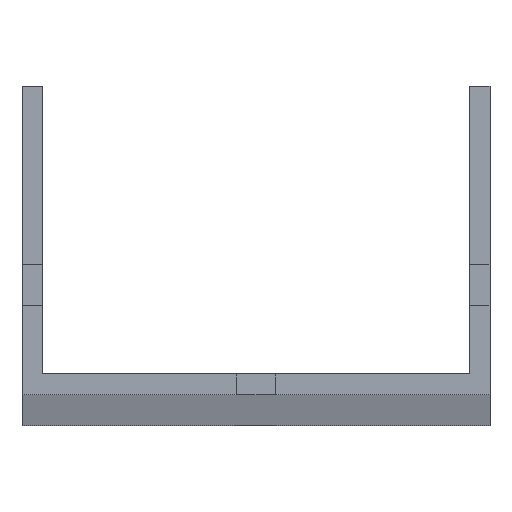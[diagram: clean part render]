
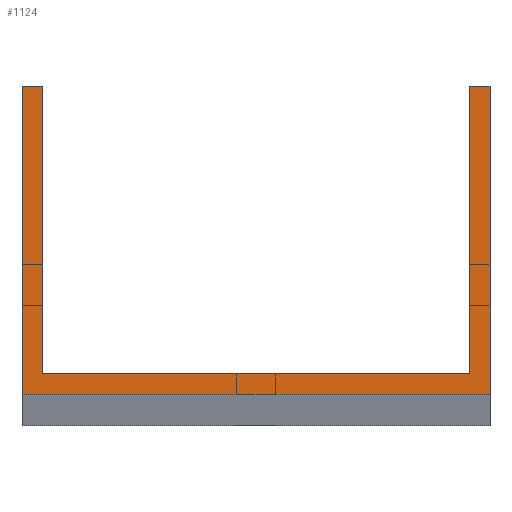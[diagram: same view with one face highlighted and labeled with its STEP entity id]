
A CAD part, top view. The second image highlights one B-rep face of the part: STEP entity #1124.
In plain terms, the highlighted planar face has unit normal (0, 0, 1).
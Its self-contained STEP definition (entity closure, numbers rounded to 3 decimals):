
#24 = ORIENTED_EDGE ( 'NONE', *, *, #1063, .F. ) ;
#37 = EDGE_CURVE ( 'NONE', #458, #177, #161, .T. ) ;
#44 = CARTESIAN_POINT ( 'NONE',  ( -39.5, 3.5, 1500. ) ) ;
#86 = CARTESIAN_POINT ( 'NONE',  ( 39.5, 52., 1500. ) ) ;
#88 = DIRECTION ( 'NONE',  ( -1., 0., 0. ) ) ;
#97 = VECTOR ( 'NONE', #1027, 1000. ) ;
#123 = CARTESIAN_POINT ( 'NONE',  ( 36., 52., 1500. ) ) ;
#127 = DIRECTION ( 'NONE',  ( 1., 0., 0. ) ) ;
#161 = LINE ( 'NONE', #782, #358 ) ;
#176 = CARTESIAN_POINT ( 'NONE',  ( 36., 3.5, 1500. ) ) ;
#177 = VERTEX_POINT ( 'NONE', #217 ) ;
#188 = LINE ( 'NONE', #809, #698 ) ;
#191 = CARTESIAN_POINT ( 'NONE',  ( -39.5, 52., 1500. ) ) ;
#192 = AXIS2_PLACEMENT_3D ( 'NONE', #1001, #824, #127 ) ;
#217 = CARTESIAN_POINT ( 'NONE',  ( 39.5, 0., 1500. ) ) ;
#233 = LINE ( 'NONE', #44, #97 ) ;
#243 = VECTOR ( 'NONE', #606, 1000. ) ;
#254 = CARTESIAN_POINT ( 'NONE',  ( -39.5, 52., 1500. ) ) ;
#279 = VECTOR ( 'NONE', #88, 1000. ) ;
#302 = CARTESIAN_POINT ( 'NONE',  ( -36., 52., 1500. ) ) ;
#307 = EDGE_CURVE ( 'NONE', #450, #946, #1036, .T. ) ;
#316 = CARTESIAN_POINT ( 'NONE',  ( -39.5, 52., 1500. ) ) ;
#335 = DIRECTION ( 'NONE',  ( -1., 0., 0. ) ) ;
#349 = EDGE_CURVE ( 'NONE', #946, #584, #233, .T. ) ;
#358 = VECTOR ( 'NONE', #608, 1000. ) ;
#359 = VERTEX_POINT ( 'NONE', #316 ) ;
#374 = PLANE ( 'NONE',  #192 ) ;
#375 = DIRECTION ( 'NONE',  ( 0., -1., 0. ) ) ;
#400 = ORIENTED_EDGE ( 'NONE', *, *, #879, .T. ) ;
#450 = VERTEX_POINT ( 'NONE', #302 ) ;
#458 = VERTEX_POINT ( 'NONE', #792 ) ;
#466 = VERTEX_POINT ( 'NONE', #86 ) ;
#468 = VECTOR ( 'NONE', #335, 1000. ) ;
#520 = DIRECTION ( 'NONE',  ( 0., 1., 0. ) ) ;
#529 = ORIENTED_EDGE ( 'NONE', *, *, #805, .T. ) ;
#584 = VERTEX_POINT ( 'NONE', #176 ) ;
#598 = CARTESIAN_POINT ( 'NONE',  ( -36., 3.5, 1500. ) ) ;
#606 = DIRECTION ( 'NONE',  ( 0., 1., 0. ) ) ;
#608 = DIRECTION ( 'NONE',  ( 1., 0., 0. ) ) ;
#636 = LINE ( 'NONE', #191, #954 ) ;
#637 = ORIENTED_EDGE ( 'NONE', *, *, #37, .T. ) ;
#650 = FACE_OUTER_BOUND ( 'NONE', #1106, .T. ) ;
#653 = VERTEX_POINT ( 'NONE', #123 ) ;
#672 = ORIENTED_EDGE ( 'NONE', *, *, #974, .T. ) ;
#698 = VECTOR ( 'NONE', #520, 1000. ) ;
#729 = ORIENTED_EDGE ( 'NONE', *, *, #307, .F. ) ;
#769 = ORIENTED_EDGE ( 'NONE', *, *, #349, .F. ) ;
#782 = CARTESIAN_POINT ( 'NONE',  ( -39.5, 0., 1500. ) ) ;
#785 = LINE ( 'NONE', #1130, #468 ) ;
#792 = CARTESIAN_POINT ( 'NONE',  ( -39.5, 0., 1500. ) ) ;
#805 = EDGE_CURVE ( 'NONE', #359, #458, #636, .T. ) ;
#809 = CARTESIAN_POINT ( 'NONE',  ( 36., 52., 1500. ) ) ;
#824 = DIRECTION ( 'NONE',  ( 0., 0., 1. ) ) ;
#849 = VECTOR ( 'NONE', #1105, 1000. ) ;
#860 = CARTESIAN_POINT ( 'NONE',  ( -36., 52., 1500. ) ) ;
#873 = ORIENTED_EDGE ( 'NONE', *, *, #891, .T. ) ;
#879 = EDGE_CURVE ( 'NONE', #177, #466, #1047, .T. ) ;
#891 = EDGE_CURVE ( 'NONE', #466, #653, #785, .T. ) ;
#946 = VERTEX_POINT ( 'NONE', #598 ) ;
#954 = VECTOR ( 'NONE', #375, 1000. ) ;
#974 = EDGE_CURVE ( 'NONE', #450, #359, #1061, .T. ) ;
#1001 = CARTESIAN_POINT ( 'NONE',  ( 0., 0., 1500. ) ) ;
#1027 = DIRECTION ( 'NONE',  ( 1., 0., 0. ) ) ;
#1036 = LINE ( 'NONE', #860, #849 ) ;
#1042 = CARTESIAN_POINT ( 'NONE',  ( 39.5, 52., 1500. ) ) ;
#1047 = LINE ( 'NONE', #1042, #243 ) ;
#1061 = LINE ( 'NONE', #254, #279 ) ;
#1063 = EDGE_CURVE ( 'NONE', #584, #653, #188, .T. ) ;
#1105 = DIRECTION ( 'NONE',  ( 0., -1., 0. ) ) ;
#1106 = EDGE_LOOP ( 'NONE', ( #729, #672, #529, #637, #400, #873, #24, #769 ) ) ;
#1124 = ADVANCED_FACE ( 'NONE', ( #650 ), #374, .T. ) ;
#1130 = CARTESIAN_POINT ( 'NONE',  ( -39.5, 52., 1500. ) ) ;
